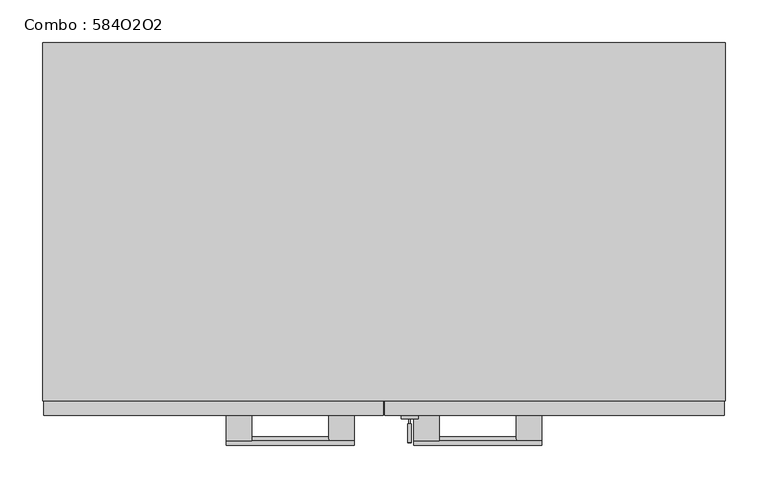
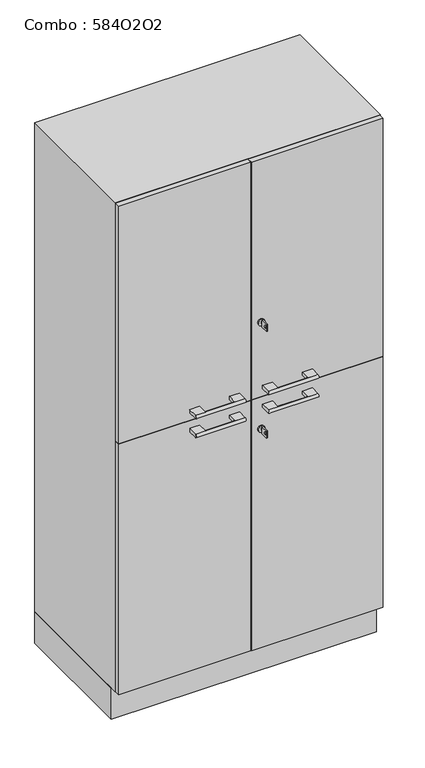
"""IFC4 building model written with IfcOpenShell, lengths in millimetres: furniture geometry, Combo : 584O2O2."""

from ifc_helpers import new_model, si_unit, point, frame, frame_2d, origin, origin_with_axes, place, context, project, spatial, polyline, circle_curve, trimmed, segment, composite_curve, outline, extrude, source, transform, mapped, element, save
from ifc_brep_helpers import plane_surface, cylinder_surface, advanced_brep


def combo_584o2o2_7f34b21f(model_context):
    return source(origin(), model_context, "Body", "SolidModel", [
        extrude(outline(polyline([(-400.0, -400.0), (-400.0, 0.0), (400.0, 0.0), (400.0, -400.0), (-400.0, -400.0)])), origin_with_axes(), (0.0, 0.0, 1.0), 100.0),
        extrude(outline(composite_curve([segment(trimmed(circle_curve(frame_2d((1140.0, 30.0)), 10.0), [point((1140.0, 20.0))], [point((1140.0, 40.0))], False, "CARTESIAN"), True, "CONTINUOUS"), segment(trimmed(circle_curve(frame_2d((1140.0, 30.0)), 10.0), [point((1140.0, 40.0))], [point((1140.0, 20.0))], False, "CARTESIAN"), True, "CONTINUOUS")], self_intersect=False)), frame((0.0, -441.0, 0.0), z_axis=(0.0, 1.0, 0.0), x_axis=(0.0, 0.0, 1.0)), (0.0, 0.0, 1.0), 4.0),
        extrude(outline(polyline([(-469.0, 1150.985887), (-447.0, 1150.985887), (-447.0, 1129.0), (-469.0, 1129.0), (-469.0, 1150.985887)]), holes=[composite_curve([segment(trimmed(circle_curve(frame_2d((-462.75, 1139.9929435)), 3.2230706), [point((-462.75, 1136.7698729))], [point((-462.75, 1143.2160141))], True, "CARTESIAN"), True, "CONTINUOUS"), segment(trimmed(circle_curve(frame_2d((-462.75, 1139.9929435)), 3.2230706), [point((-462.75, 1143.2160141))], [point((-462.75, 1136.7698729))], True, "CARTESIAN"), True, "CONTINUOUS")], self_intersect=False)]), frame((28.0, 0.0, 0.0), z_axis=(1.0, 0.0, 0.0), x_axis=(0.0, 1.0, 0.0)), (0.0, 0.0, 1.0), 4.0416064),
        extrude(outline(polyline([(29.0, -447.0), (29.0, -441.0), (31.0416064, -441.0), (31.0416064, -447.0), (29.0, -447.0)])), frame((0.0, 0.0, 1136.0), z_axis=(0.0, 0.0, 1.0), x_axis=(1.0, 0.0, 0.0)), (0.0, 0.0, 1.0), 7.985887),
        advanced_brep(
        [(-185.0, -467.0, 925.0), (-185.0, -467.0, 935.0), (-185.0, -437.0, 935.0), (-185.0, -437.0, 925.0), (-155.0, -467.0, 935.0), (-155.0, -467.0, 925.0), (-155.0, -437.0, 925.0), (-155.0, -437.0, 935.0), (-35.0, -467.0, 925.0), (-35.0, -437.0, 925.0), (-35.0, -437.0, 935.0), (-35.0, -467.0, 935.0), (-65.0, -467.0, 935.0), (-65.0, -467.0, 925.0), (-65.0, -437.0, 935.0), (-65.0, -437.0, 925.0)],
        [
            (0, 1, circle_curve(frame((-185.0, -467.0, 930.0), z_axis=(-1.0, 0.0, 0.0), x_axis=(0.0, 0.0, 1.0)), 5.0)),
            (1, 2),
            (2, 3),
            (3, 0),
            (4, 5, circle_curve(frame((-155.0, -467.0, 930.0), z_axis=(-1.0, 0.0, 0.0), x_axis=(0.0, 0.0, 1.0)), 5.0)),
            (5, 6),
            (6, 7),
            (7, 4),
            (1, 4),
            (7, 2),
            (6, 3),
            (5, 0),
            (8, 9),
            (9, 10),
            (10, 11),
            (11, 8, circle_curve(frame((-35.0, -467.0, 930.0), z_axis=(1.0, 0.0, 0.0), x_axis=(0.0, 0.0, 1.0)), 5.0)),
            (11, 12),
            (12, 4),
            (5, 13),
            (13, 8),
            (12, 13, circle_curve(frame((-65.0, -467.0, 930.0), z_axis=(-1.0, 0.0, 0.0), x_axis=(0.0, 0.0, 1.0)), 5.0)),
            (12, 14),
            (14, 15),
            (15, 13),
            (10, 14),
            (9, 15),
        ],
        [
            plane_surface(frame((-185.0, -467.0, 924.0), z_axis=(-1.0, 0.0, 0.0), x_axis=(0.0, 0.0, -1.0))),
            plane_surface(frame((-155.0, -467.0, 924.0), z_axis=(1.0, 0.0, 0.0), x_axis=(0.0, 0.0, 1.0))),
            plane_surface(frame((-185.0, -437.0, 935.0), z_axis=(0.0, 0.0, 1.0), x_axis=(1.0, 0.0, 0.0))),
            plane_surface(frame((-185.0, -437.0, 925.0), z_axis=(0.0, 1.0, 0.0), x_axis=(1.0, 0.0, 0.0))),
            plane_surface(frame((-185.0, -467.0, 925.0), z_axis=(0.0, 0.0, -1.0), x_axis=(1.0, 0.0, 0.0))),
            plane_surface(frame((-35.0, -467.0, 935.0), z_axis=(1.0, 0.0, 0.0), x_axis=(0.0, 1.0, 0.0))),
            cylinder_surface(frame((-185.0, -467.0, 930.0), z_axis=(1.0, 0.0, 0.0), x_axis=(0.0, 0.0, 1.0)), 5.0),
            plane_surface(frame((-65.0, -555.7415577, 935.0), z_axis=(-1.0, 0.0, 0.0), x_axis=(0.0, -1.0, 0.0))),
            plane_surface(frame((-35.0, -467.0, 935.0), z_axis=(0.0, 0.0, 1.0), x_axis=(-1.0, 0.0, 0.0))),
            plane_surface(frame((-35.0, -437.0, 935.0), z_axis=(0.0, 1.0, 0.0), x_axis=(-1.0, 0.0, 0.0))),
            plane_surface(frame((-35.0, -437.0, 925.0), z_axis=(0.0, 0.0, -1.0), x_axis=(-1.0, 0.0, 0.0))),
        ],
        [
            (0, [[1, 2, 3, 4]]),
            (1, [[5, 6, 7, 8]]),
            (2, [[9, -8, 10, -2]]),
            (3, [[-10, -7, 11, -3]]),
            (4, [[-11, -6, 12, -4]]),
            (5, [[13, 14, 15, 16]]),
            (6, [[17, 18, -9, -1, -12, 19, 20, -16]]),
            (6, [[-18, 21, -19, -5]]),
            (7, [[-21, 22, 23, 24]]),
            (8, [[25, -22, -17, -15]]),
            (9, [[26, -23, -25, -14]]),
            (10, [[-20, -24, -26, -13]]),
        ],
    ),
        advanced_brep(
        [(35.0, -467.0, 925.0), (35.0, -467.0, 935.0), (35.0, -437.0, 935.0), (35.0, -437.0, 925.0), (65.0, -467.0, 935.0), (65.0, -467.0, 925.0), (65.0, -437.0, 925.0), (65.0, -437.0, 935.0), (185.0, -467.0, 925.0), (185.0, -437.0, 925.0), (185.0, -437.0, 935.0), (185.0, -467.0, 935.0), (155.0, -467.0, 935.0), (155.0, -467.0, 925.0), (155.0, -437.0, 935.0), (155.0, -437.0, 925.0)],
        [
            (0, 1, circle_curve(frame((35.0, -467.0, 930.0), z_axis=(-1.0, 0.0, 0.0), x_axis=(0.0, 0.0, 1.0)), 5.0)),
            (1, 2),
            (2, 3),
            (3, 0),
            (4, 5, circle_curve(frame((65.0, -467.0, 930.0), z_axis=(-1.0, 0.0, 0.0), x_axis=(0.0, 0.0, 1.0)), 5.0)),
            (5, 6),
            (6, 7),
            (7, 4),
            (1, 4),
            (7, 2),
            (6, 3),
            (5, 0),
            (8, 9),
            (9, 10),
            (10, 11),
            (11, 8, circle_curve(frame((185.0, -467.0, 930.0), z_axis=(1.0, 0.0, 0.0), x_axis=(0.0, 0.0, 1.0)), 5.0)),
            (11, 12),
            (12, 4),
            (5, 13),
            (13, 8),
            (12, 13, circle_curve(frame((155.0, -467.0, 930.0), z_axis=(-1.0, 0.0, 0.0), x_axis=(0.0, 0.0, 1.0)), 5.0)),
            (12, 14),
            (14, 15),
            (15, 13),
            (10, 14),
            (9, 15),
        ],
        [
            plane_surface(frame((35.0, -467.0, 924.0), z_axis=(-1.0, 0.0, 0.0), x_axis=(0.0, 0.0, -1.0))),
            plane_surface(frame((65.0, -467.0, 924.0), z_axis=(1.0, 0.0, 0.0), x_axis=(0.0, 0.0, 1.0))),
            plane_surface(frame((35.0, -437.0, 935.0), z_axis=(0.0, 0.0, 1.0), x_axis=(1.0, 0.0, 0.0))),
            plane_surface(frame((35.0, -437.0, 925.0), z_axis=(0.0, 1.0, 0.0), x_axis=(1.0, 0.0, 0.0))),
            plane_surface(frame((35.0, -467.0, 925.0), z_axis=(0.0, 0.0, -1.0), x_axis=(1.0, 0.0, 0.0))),
            plane_surface(frame((185.0, -467.0, 935.0), z_axis=(1.0, 0.0, 0.0), x_axis=(0.0, 1.0, 0.0))),
            cylinder_surface(frame((35.0, -467.0, 930.0), z_axis=(1.0, 0.0, 0.0), x_axis=(0.0, 0.0, 1.0)), 5.0),
            plane_surface(frame((155.0, -555.7415577, 935.0), z_axis=(-1.0, 0.0, 0.0), x_axis=(0.0, -1.0, 0.0))),
            plane_surface(frame((185.0, -467.0, 935.0), z_axis=(0.0, 0.0, 1.0), x_axis=(-1.0, 0.0, 0.0))),
            plane_surface(frame((185.0, -437.0, 935.0), z_axis=(0.0, 1.0, 0.0), x_axis=(-1.0, 0.0, 0.0))),
            plane_surface(frame((185.0, -437.0, 925.0), z_axis=(0.0, 0.0, -1.0), x_axis=(-1.0, 0.0, 0.0))),
        ],
        [
            (0, [[1, 2, 3, 4]]),
            (1, [[5, 6, 7, 8]]),
            (2, [[9, -8, 10, -2]]),
            (3, [[-10, -7, 11, -3]]),
            (4, [[-11, -6, 12, -4]]),
            (5, [[13, 14, 15, 16]]),
            (6, [[17, 18, -9, -1, -12, 19, 20, -16]]),
            (6, [[-18, 21, -19, -5]]),
            (7, [[-21, 22, 23, 24]]),
            (8, [[25, -22, -17, -15]]),
            (9, [[26, -23, -25, -14]]),
            (10, [[-20, -24, -26, -13]]),
        ],
    ),
        extrude(outline(composite_curve([segment(trimmed(circle_curve(frame_2d((800.0, 30.0)), 10.0), [point((800.0, 20.0))], [point((800.0, 40.0))], False, "CARTESIAN"), True, "CONTINUOUS"), segment(trimmed(circle_curve(frame_2d((800.0, 30.0)), 10.0), [point((800.0, 40.0))], [point((800.0, 20.0))], False, "CARTESIAN"), True, "CONTINUOUS")], self_intersect=False)), frame((0.0, -441.0, 0.0), z_axis=(0.0, 1.0, 0.0), x_axis=(0.0, 0.0, 1.0)), (0.0, 0.0, 1.0), 4.0),
        extrude(outline(polyline([(-469.0, 789.014113), (-469.0, 811.0), (-447.0, 811.0), (-447.0, 789.014113), (-469.0, 789.014113)]), holes=[composite_curve([segment(trimmed(circle_curve(frame_2d((-462.75, 800.0070565)), 3.2230706), [point((-462.75, 803.2301271))], [point((-462.75, 796.7839859))], True, "CARTESIAN"), True, "CONTINUOUS"), segment(trimmed(circle_curve(frame_2d((-462.75, 800.0070565)), 3.2230706), [point((-462.75, 796.7839859))], [point((-462.75, 803.2301271))], True, "CARTESIAN"), True, "CONTINUOUS")], self_intersect=False)]), frame((28.0, 0.0, 0.0), z_axis=(1.0, 0.0, 0.0), x_axis=(0.0, 1.0, 0.0)), (0.0, 0.0, 1.0), 4.0416064),
        extrude(outline(polyline([(31.0416064, -447.0), (29.0, -447.0), (29.0, -441.0), (31.0416064, -441.0), (31.0416064, -447.0)])), frame((0.0, 0.0, 796.014113), z_axis=(0.0, 0.0, 1.0), x_axis=(1.0, 0.0, 0.0)), (0.0, 0.0, 1.0), 7.985887),
        advanced_brep(
        [(-185.0, -467.0, 875.0), (-185.0, -437.0, 875.0), (-185.0, -437.0, 865.0), (-185.0, -467.0, 865.0), (-155.0, -467.0, 865.0), (-155.0, -437.0, 865.0), (-155.0, -437.0, 875.0), (-155.0, -467.0, 875.0), (-35.0, -467.0, 875.0), (-35.0, -467.0, 865.0), (-35.0, -437.0, 865.0), (-35.0, -437.0, 875.0), (-65.0, -467.0, 875.0), (-65.0, -467.0, 865.0), (-65.0, -437.0, 875.0), (-65.0, -437.0, 865.0)],
        [
            (0, 1),
            (1, 2),
            (2, 3),
            (3, 0, circle_curve(frame((-185.0, -467.0, 870.0), z_axis=(-1.0, 0.0, 0.0), x_axis=(0.0, 0.0, -1.0)), 5.0)),
            (4, 5),
            (5, 6),
            (6, 7),
            (7, 4, circle_curve(frame((-155.0, -467.0, 870.0), z_axis=(-1.0, 0.0, 0.0), x_axis=(0.0, 0.0, -1.0)), 5.0)),
            (2, 5),
            (4, 3),
            (1, 6),
            (0, 7),
            (8, 9, circle_curve(frame((-35.0, -467.0, 870.0), z_axis=(1.0, 0.0, 0.0), x_axis=(0.0, 0.0, -1.0)), 5.0)),
            (9, 10),
            (10, 11),
            (11, 8),
            (8, 12),
            (12, 7),
            (4, 13),
            (13, 9),
            (12, 13, circle_curve(frame((-65.0, -467.0, 870.0), z_axis=(-1.0, 0.0, 0.0), x_axis=(0.0, 0.0, -1.0)), 5.0)),
            (12, 14),
            (14, 15),
            (15, 13),
            (15, 10),
            (14, 11),
        ],
        [
            plane_surface(frame((-185.0, -467.0, 876.0), z_axis=(-1.0, 0.0, 0.0), x_axis=(0.0, 0.0, 1.0))),
            plane_surface(frame((-155.0, -467.0, 876.0), z_axis=(1.0, 0.0, 0.0), x_axis=(0.0, 0.0, -1.0))),
            plane_surface(frame((-185.0, -437.0, 865.0), z_axis=(0.0, 0.0, -1.0), x_axis=(1.0, 0.0, 0.0))),
            plane_surface(frame((-185.0, -437.0, 875.0), z_axis=(0.0, 1.0, 0.0), x_axis=(1.0, 0.0, 0.0))),
            plane_surface(frame((-185.0, -467.0, 875.0), z_axis=(0.0, 0.0, 1.0), x_axis=(1.0, 0.0, 0.0))),
            plane_surface(frame((-35.0, -467.0, 865.0), z_axis=(1.0, 0.0, 0.0), x_axis=(0.0, 1.0, 0.0))),
            cylinder_surface(frame((-185.0, -467.0, 870.0), z_axis=(1.0, 0.0, 0.0), x_axis=(0.0, 0.0, -1.0)), 5.0),
            plane_surface(frame((-65.0, -555.7415577, 865.0), z_axis=(-1.0, 0.0, 0.0), x_axis=(0.0, -1.0, 0.0))),
            plane_surface(frame((-35.0, -467.0, 865.0), z_axis=(0.0, 0.0, -1.0), x_axis=(-1.0, 0.0, 0.0))),
            plane_surface(frame((-35.0, -437.0, 865.0), z_axis=(0.0, 1.0, 0.0), x_axis=(-1.0, 0.0, 0.0))),
            plane_surface(frame((-35.0, -437.0, 875.0), z_axis=(0.0, 0.0, 1.0), x_axis=(-1.0, 0.0, 0.0))),
        ],
        [
            (0, [[1, 2, 3, 4]]),
            (1, [[5, 6, 7, 8]]),
            (2, [[-3, 9, -5, 10]]),
            (3, [[-2, 11, -6, -9]]),
            (4, [[-1, 12, -7, -11]]),
            (5, [[13, 14, 15, 16]]),
            (6, [[-13, 17, 18, -12, -4, -10, 19, 20]]),
            (6, [[-8, -18, 21, -19]]),
            (7, [[22, 23, 24, -21]]),
            (8, [[-14, -20, -24, 25]]),
            (9, [[-15, -25, -23, 26]]),
            (10, [[-16, -26, -22, -17]]),
        ],
    ),
        advanced_brep(
        [(35.0, -467.0, 875.0), (35.0, -437.0, 875.0), (35.0, -437.0, 865.0), (35.0, -467.0, 865.0), (65.0, -467.0, 865.0), (65.0, -437.0, 865.0), (65.0, -437.0, 875.0), (65.0, -467.0, 875.0), (185.0, -467.0, 875.0), (185.0, -467.0, 865.0), (185.0, -437.0, 865.0), (185.0, -437.0, 875.0), (155.0, -467.0, 875.0), (155.0, -467.0, 865.0), (155.0, -437.0, 875.0), (155.0, -437.0, 865.0)],
        [
            (0, 1),
            (1, 2),
            (2, 3),
            (3, 0, circle_curve(frame((35.0, -467.0, 870.0), z_axis=(-1.0, 0.0, 0.0), x_axis=(0.0, 0.0, -1.0)), 5.0)),
            (4, 5),
            (5, 6),
            (6, 7),
            (7, 4, circle_curve(frame((65.0, -467.0, 870.0), z_axis=(-1.0, 0.0, 0.0), x_axis=(0.0, 0.0, -1.0)), 5.0)),
            (2, 5),
            (4, 3),
            (1, 6),
            (0, 7),
            (8, 9, circle_curve(frame((185.0, -467.0, 870.0), z_axis=(1.0, 0.0, 0.0), x_axis=(0.0, 0.0, -1.0)), 5.0)),
            (9, 10),
            (10, 11),
            (11, 8),
            (8, 12),
            (12, 7),
            (4, 13),
            (13, 9),
            (12, 13, circle_curve(frame((155.0, -467.0, 870.0), z_axis=(-1.0, 0.0, 0.0), x_axis=(0.0, 0.0, -1.0)), 5.0)),
            (12, 14),
            (14, 15),
            (15, 13),
            (15, 10),
            (14, 11),
        ],
        [
            plane_surface(frame((35.0, -467.0, 876.0), z_axis=(-1.0, 0.0, 0.0), x_axis=(0.0, 0.0, 1.0))),
            plane_surface(frame((65.0, -467.0, 876.0), z_axis=(1.0, 0.0, 0.0), x_axis=(0.0, 0.0, -1.0))),
            plane_surface(frame((35.0, -437.0, 865.0), z_axis=(0.0, 0.0, -1.0), x_axis=(1.0, 0.0, 0.0))),
            plane_surface(frame((35.0, -437.0, 875.0), z_axis=(0.0, 1.0, 0.0), x_axis=(1.0, 0.0, 0.0))),
            plane_surface(frame((35.0, -467.0, 875.0), z_axis=(0.0, 0.0, 1.0), x_axis=(1.0, 0.0, 0.0))),
            plane_surface(frame((185.0, -467.0, 865.0), z_axis=(1.0, 0.0, 0.0), x_axis=(0.0, 1.0, 0.0))),
            cylinder_surface(frame((35.0, -467.0, 870.0), z_axis=(1.0, 0.0, 0.0), x_axis=(0.0, 0.0, -1.0)), 5.0),
            plane_surface(frame((155.0, -555.7415577, 865.0), z_axis=(-1.0, 0.0, 0.0), x_axis=(0.0, -1.0, 0.0))),
            plane_surface(frame((185.0, -467.0, 865.0), z_axis=(0.0, 0.0, -1.0), x_axis=(-1.0, 0.0, 0.0))),
            plane_surface(frame((185.0, -437.0, 865.0), z_axis=(0.0, 1.0, 0.0), x_axis=(-1.0, 0.0, 0.0))),
            plane_surface(frame((185.0, -437.0, 875.0), z_axis=(0.0, 0.0, 1.0), x_axis=(-1.0, 0.0, 0.0))),
        ],
        [
            (0, [[1, 2, 3, 4]]),
            (1, [[5, 6, 7, 8]]),
            (2, [[-3, 9, -5, 10]]),
            (3, [[-2, 11, -6, -9]]),
            (4, [[-1, 12, -7, -11]]),
            (5, [[13, 14, 15, 16]]),
            (6, [[-13, 17, 18, -12, -4, -10, 19, 20]]),
            (6, [[-8, -18, 21, -19]]),
            (7, [[22, 23, 24, -21]]),
            (8, [[-14, -20, -24, 25]]),
            (9, [[-15, -25, -23, 26]]),
            (10, [[-16, -26, -22, -17]]),
        ],
    ),
        extrude(outline(polyline([(-1.0, -437.0), (-399.0, -437.0), (-399.0, -421.0), (-1.0, -421.0), (-1.0, -437.0)])), frame((0.0, 0.0, 901.0), z_axis=(0.0, 0.0, 1.0), x_axis=(1.0, 0.0, 0.0)), (0.0, 0.0, 1.0), 758.0),
        extrude(outline(polyline([(399.0, -437.0), (1.0, -437.0), (1.0, -421.0), (399.0, -421.0), (399.0, -437.0)])), frame((0.0, 0.0, 901.0), z_axis=(0.0, 0.0, 1.0), x_axis=(1.0, 0.0, 0.0)), (0.0, 0.0, 1.0), 758.0),
        extrude(outline(polyline([(-1.0, -437.0), (-399.0, -437.0), (-399.0, -421.0), (-1.0, -421.0), (-1.0, -437.0)])), frame((0.0, 0.0, 101.0), z_axis=(0.0, 0.0, 1.0), x_axis=(1.0, 0.0, 0.0)), (0.0, 0.0, 1.0), 798.0),
        extrude(outline(polyline([(399.0, -437.0), (1.0, -437.0), (1.0, -421.0), (399.0, -421.0), (399.0, -437.0)])), frame((0.0, 0.0, 101.0), z_axis=(0.0, 0.0, 1.0), x_axis=(1.0, 0.0, 0.0)), (0.0, 0.0, 1.0), 798.0),
        extrude(outline(polyline([(400.0, 0.0), (400.0, -420.0), (-400.0, -420.0), (-400.0, 0.0), (400.0, 0.0)])), frame((0.0, 0.0, 100.0), z_axis=(0.0, 0.0, 1.0), x_axis=(1.0, 0.0, 0.0)), (0.0, 0.0, 1.0), 1560.0),
    ])


if __name__ == "__main__":
    model = new_model("IFC4")
    model_context = context("Model", 3, world=origin())
    ifc_project = project(units=[si_unit("LENGTHUNIT", "METRE", prefix="MILLI")], contexts=[model_context])
    site = spatial("IfcSite", under=ifc_project)
    building = spatial("IfcBuilding", under=site)
    placement = place(None, origin())
    combo_584o2o2_shape = combo_584o2o2_7f34b21f(model_context)
    element("IfcFurniture", 1, ObjectType="Combo : 584O2O2", at=placement, inside=building, context=model_context, shape_type="MappedRepresentation", body=[
        mapped(combo_584o2o2_shape, transform((0.0, 0.0, 0.0), x_axis=(1.0, 0.0, 0.0), y_axis=(0.0, 1.0, 0.0), z_axis=(0.0, 0.0, 1.0))),
    ])
    save(model, "model.ifc")
